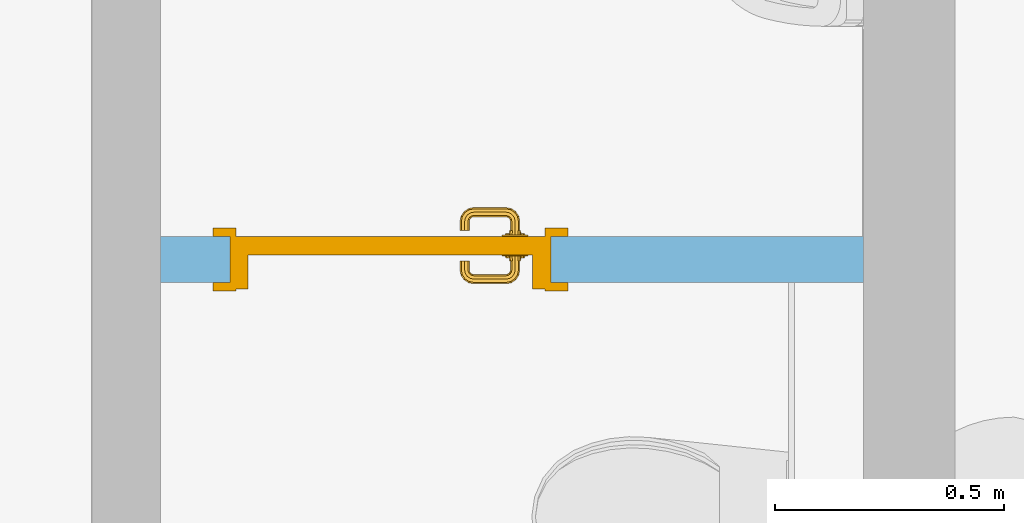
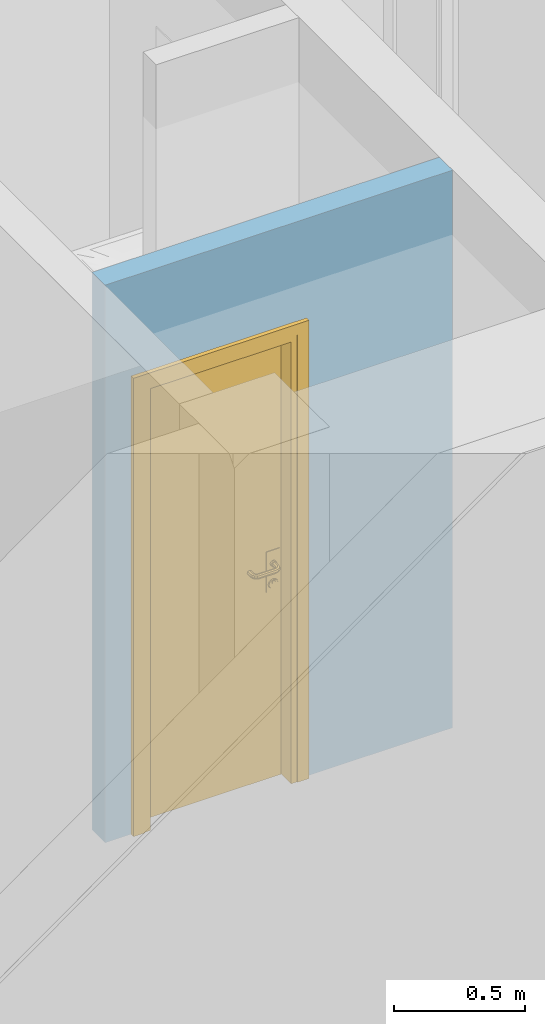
# One storey, part 38 of 127: 1 door, 1 opening, plus 1 element that does not belong to this part.
"""IFC2X3 building model written with IfcOpenShell, lengths in millimetres."""

from ifc_helpers import new_model, entity, si_unit, converted_unit, derived_unit, money_unit, direction, frame, origin_with_axes, origin_2d_with_axis, place, context, subcontext, project, spatial, polyline, rectangle, outline, extrude, open_shell, faceted_brep, surface_model, material, layer, layer_set, layer_usage, type_object, element, fill, save


model = new_model("IFC2X3")

# Units and contexts
model_context = context("Model", 3, precision=1e-05, world=origin_with_axes(), true_north=direction((0.0, 1.0)))
body_context = subcontext(model_context, "Body", "Model", "MODEL_VIEW")
ifc_project = project(units=[si_unit("LENGTHUNIT", "METRE", prefix="MILLI"), si_unit("AREAUNIT", "SQUARE_METRE"), si_unit("VOLUMEUNIT", "CUBIC_METRE"), converted_unit("PLANEANGLEUNIT", "DEGREE", entity("IfcPlaneAngleMeasure", 0.0174532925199), si_unit("PLANEANGLEUNIT", "RADIAN"), dimensions=[0, 0, 0, 0, 0, 0, 0]), si_unit("SOLIDANGLEUNIT", "STERADIAN"), money_unit("EUR"), converted_unit("TIMEUNIT", "Year", entity("IfcTimeMeasure", 31556926.0), si_unit("TIMEUNIT", "SECOND"), dimensions=[0, 0, 1, 0, 0, 0, 0]), si_unit("MASSUNIT", "GRAM", prefix="KILO"), si_unit("THERMODYNAMICTEMPERATUREUNIT", "DEGREE_CELSIUS"), si_unit("LUMINOUSINTENSITYUNIT", "LUMEN"), si_unit("ENERGYUNIT", "JOULE", prefix="MEGA"), derived_unit("THERMALCONDUCTANCEUNIT", [(si_unit("POWERUNIT", "WATT"), 1), (si_unit("LENGTHUNIT", "METRE"), -1), (si_unit("THERMODYNAMICTEMPERATUREUNIT", "KELVIN"), -1)]), derived_unit("SPECIFICHEATCAPACITYUNIT", [(si_unit("ENERGYUNIT", "JOULE"), 1), (si_unit("MASSUNIT", "GRAM", prefix="KILO"), -1), (si_unit("THERMODYNAMICTEMPERATUREUNIT", "KELVIN"), -1)]), derived_unit("MASSDENSITYUNIT", [(si_unit("MASSUNIT", "GRAM", prefix="KILO"), 1), (si_unit("VOLUMEUNIT", "CUBIC_METRE"), -1)])], contexts=[model_context])

# Site, building, storey
site_placement = place(None, origin_with_axes())
site = spatial("IfcSite", under=ifc_project, at=site_placement, Name="Site", CompositionType="ELEMENT")
building_placement = place(site_placement, origin_with_axes())
building = spatial("IfcBuilding", under=site, at=building_placement, Name="Building", CompositionType="ELEMENT")
storey_placement = place(building_placement, origin_with_axes())
storey = spatial("IfcBuildingStorey", under=building, at=storey_placement, Name="1 KORRUS", CompositionType="ELEMENT", Elevation=0.0)

# Wall, opening, door
ifc_material = material(Name="Kivi -Ol.Olev Konstruktsioon")
ifc_layer = layer(ifc_material, 100.0, ventilated="UNKNOWN")
ifc_layer_set = layer_set([ifc_layer], Name="ol.olev ss 100")
ifc_layer_usage = layer_usage(ifc_layer_set, "AXIS2", "POSITIVE", 0.0)
wall_type = type_object("IfcWallType", Name="SW - 037", PredefinedType="NOTDEFINED")
wall_placement = place(storey_placement, frame((9734.30400259, 60560.9804946, 0.0), z_axis=(0.0, 0.0, 1.0), x_axis=(1.0, 0.0, 0.0)))
wall = element("IfcWallStandardCase", 1, at=wall_placement, inside=storey, type_object=wall_type, material=ifc_layer_usage, Name="ol.olev ss 100", context=body_context, shape_type="SweptSolid", body=[
    extrude(outline(polyline([(150.0, 0.0), (1682.35207692, 0.0), (1682.35207692, 100.0), (150.0, 100.0), (150.0, 0.0)])), origin_with_axes(), (0.0, 0.0, 1.0), 2600.0),
])
opening_placement = place(wall_placement, frame((650.978587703, 0.0, 0.0), z_axis=(0.0, 0.0, 1.0), x_axis=(1.0, 0.0, 0.0)))
opening = element("IfcOpeningElement", 2, at=opening_placement, cuts=wall, Name="Siseuks * Door 22", context=body_context, shape_type="SweptSolid", body=[
    extrude(rectangle(XDim=700.0, YDim=2100.0, at=origin_2d_with_axis()), frame((0.0, -100.0, 1050.0), z_axis=(0.0, -1.0, 0.0), x_axis=(-1.0, 0.0, 0.0)), (0.0, 0.0, -1.0), 300.000000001),
    extrude(rectangle(XDim=774.0, YDim=2137.0, at=origin_2d_with_axis()), frame((0.0, 0.0, 1068.5), z_axis=(0.0, -1.0, 0.0), x_axis=(-1.0, 0.0, 0.0)), (0.0, 0.0, 1.0), 100.0),
    extrude(rectangle(XDim=774.0, YDim=2137.0, at=origin_2d_with_axis()), frame((0.0, 100.0, 1068.5), z_axis=(0.0, 1.0, 0.0), x_axis=(-1.0, 0.0, 0.0)), (0.0, 0.0, 1.0), 100.0),
])
door_style = type_object("IfcDoorStyle", Name="SU-A104A   700×2\xa0100", ConstructionType="NOTDEFINED", OperationType="SINGLE_SWING_LEFT", ParameterTakesPrecedence=False, Sizeable=False)
door_placement = place(opening_placement, frame((-350.0, 0.0, 0.0), z_axis=(0.0, 0.0, 1.0), x_axis=(1.0, 0.0, 0.0)))
door = element("IfcDoor", 3, at=door_placement, inside=storey, type_object=door_style, Name="Siseuks * Door 22", OverallHeight=2100.0, OverallWidth=700.0, context=body_context, shape_type="SurfaceModel", body=[
    faceted_brep([(737.0, -18.9999999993, 0.0), (687.0, -18.9999999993, 0.0), (687.0, 0.0, 0.0), (737.0, 0.0, 0.0), (737.0, -18.9999999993, 2137.0), (687.0, -18.9999999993, 2087.0), (687.0, 0.0, 2087.0), (737.0, 0.0, 2137.0)], [[[0, 1, 2, 3]], [[0, 4, 5, 1]], [[1, 5, 6, 2]], [[3, 2, 6, 7]], [[4, 0, 3, 7]], [[5, 4, 7, 6]]]),
    faceted_brep([(-36.9999999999, -18.9999999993, 2137.0), (13.0, -18.9999999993, 2087.0), (13.0, 0.0, 2087.0), (-36.9999999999, 0.0, 2137.0), (-36.9999999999, -18.9999999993, 0.0), (13.0, -18.9999999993, 0.0), (13.0, 0.0, 0.0), (-36.9999999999, 0.0, 0.0)], [[[0, 1, 2, 3]], [[0, 4, 5, 1]], [[1, 5, 6, 2]], [[3, 2, 6, 7]], [[4, 0, 3, 7]], [[5, 4, 7, 6]]]),
    faceted_brep([(737.0, -18.9999999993, 2137.0), (687.0, -18.9999999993, 2087.0), (687.0, 0.0, 2087.0), (737.0, 0.0, 2137.0), (-36.9999999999, -18.9999999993, 2137.0), (13.0, -18.9999999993, 2087.0), (13.0, 0.0, 2087.0), (-36.9999999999, 0.0, 2137.0)], [[[0, 1, 2, 3]], [[0, 4, 5, 1]], [[1, 5, 6, 2]], [[3, 2, 6, 7]], [[4, 0, 3, 7]], [[5, 4, 7, 6]]]),
    faceted_brep([(737.0, 119.000000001, 0.0), (737.0, 100.0, 0.0), (687.0, 100.0, 0.0), (687.0, 119.000000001, 0.0), (737.0, 119.000000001, 2137.0), (737.0, 100.0, 2137.0), (687.0, 100.0, 2087.0), (687.0, 119.000000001, 2087.0)], [[[0, 1, 2, 3]], [[4, 5, 1, 0]], [[1, 5, 6, 2]], [[3, 2, 6, 7]], [[0, 3, 7, 4]], [[7, 6, 5, 4]]]),
    faceted_brep([(-36.9999999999, 119.000000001, 2137.0), (-36.9999999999, 100.0, 2137.0), (13.0, 100.0, 2087.0), (13.0, 119.000000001, 2087.0), (-36.9999999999, 119.000000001, 0.0), (-36.9999999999, 100.0, 0.0), (13.0, 100.0, 0.0), (13.0, 119.000000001, 0.0)], [[[0, 1, 2, 3]], [[4, 5, 1, 0]], [[1, 5, 6, 2]], [[3, 2, 6, 7]], [[0, 3, 7, 4]], [[7, 6, 5, 4]]]),
    faceted_brep([(737.0, 119.000000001, 2137.0), (737.0, 100.0, 2137.0), (687.0, 100.0, 2087.0), (687.0, 119.000000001, 2087.0), (-36.9999999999, 119.000000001, 2137.0), (-36.9999999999, 100.0, 2137.0), (13.0, 100.0, 2087.0), (13.0, 119.000000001, 2087.0)], [[[0, 1, 2, 3]], [[4, 5, 1, 0]], [[1, 5, 6, 2]], [[3, 2, 6, 7]], [[0, 3, 7, 4]], [[7, 6, 5, 4]]]),
    faceted_brep([(660.0, 60.0000000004, 0.0), (660.0, -14.9999999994, 0.0), (660.0, -14.9999999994, 2060.0), (660.0, 60.0000000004, 2060.0), (672.0, 60.0000000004, 0.0), (672.0, 100.0, 0.0), (700.0, 100.0, 0.0), (700.0, -14.9999999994, 0.0), (700.0, -14.9999999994, 2060.0), (672.0, 60.0000000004, 2060.0), (700.0, 100.0, 2060.0), (672.0, 100.0, 2060.0)], [[[0, 1, 2, 3]], [[4, 5, 6, 7, 1, 0]], [[1, 7, 8, 2]], [[9, 3, 2, 8, 10, 11]], [[9, 4, 0, 3]], [[11, 5, 4, 9]], [[11, 10, 6, 5]], [[6, 10, 8, 7]]]),
    faceted_brep([(28.0, 60.0000000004, 2060.0), (28.0, 100.0, 2060.0), (0.0, 100.0, 2060.0), (0.0, -14.9999999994, 2060.0), (40.0000000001, -14.9999999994, 2060.0), (40.0000000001, 60.0000000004, 2060.0), (28.0, 60.0000000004, 0.0), (28.0, 100.0, 0.0), (0.0, 100.0, 0.0), (0.0, -14.9999999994, 0.0), (40.0000000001, -14.9999999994, 0.0), (40.0000000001, 60.0000000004, 0.0)], [[[0, 1, 2, 3, 4, 5]], [[0, 6, 7, 1]], [[7, 8, 2, 1]], [[2, 8, 9, 3]], [[3, 9, 10, 4]], [[5, 4, 10, 11]], [[5, 11, 6, 0]], [[6, 11, 10, 9, 8, 7]]]),
    faceted_brep([(672.0, 100.0, 2072.0), (28.0, 100.0, 2072.0), (28.0, 100.0, 2060.0), (0.0, 100.0, 2060.0), (0.0, 100.0, 2100.0), (700.0, 100.0, 2100.0), (700.0, 100.0, 2060.0), (672.0, 100.0, 2060.0), (672.0, 60.0000000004, 2072.0), (28.0, 60.0000000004, 2072.0), (28.0, 60.0000000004, 2060.0), (40.0000000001, 60.0000000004, 2060.0), (40.0000000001, -14.9999999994, 2060.0), (0.0, -14.9999999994, 2060.0), (0.0, -14.9999999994, 2100.0), (700.0, -14.9999999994, 2100.0), (700.0, -14.9999999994, 2060.0), (672.0, 60.0000000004, 2060.0), (660.0, -14.9999999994, 2060.0), (660.0, 60.0000000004, 2060.0)], [[[0, 1, 2, 3, 4, 5, 6, 7]], [[0, 8, 9, 1]], [[1, 9, 10, 2]], [[10, 11, 12, 13, 3, 2]], [[4, 3, 13, 14]], [[5, 4, 14, 15]], [[6, 5, 15, 16]], [[17, 7, 6, 16, 18, 19]], [[7, 17, 8, 0]], [[10, 9, 8, 17, 19, 11]], [[19, 18, 12, 11]], [[12, 18, 16, 15, 14, 13]]]),
    faceted_brep([(650.5, 60.0000000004, 1060.0), (593.5, 60.0000000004, 1060.0), (593.5, 57.0000000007, 1060.0), (650.5, 57.0000000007, 1060.0), (650.5, 60.0000000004, 870.0), (593.5, 60.0000000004, 870.0), (593.5, 57.0000000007, 870.0), (650.5, 57.0000000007, 870.0)], [[[0, 1, 2, 3]], [[0, 4, 5, 1]], [[1, 5, 6, 2]], [[3, 2, 6, 7]], [[4, 0, 3, 7]], [[5, 4, 7, 6]]]),
    surface_model("IfcShellBasedSurfaceModel", [(612.0, 47.0000000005, 1000.0), (614.928932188, 47.0000000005, 992.928932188), (614.928932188, 27.6964393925, 992.928932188), (612.0, 27.9849140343, 1000.0), (622.0, 47.0000000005, 990.0), (622.0, 27.0, 990.0), (613.816790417, 22.1053251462, 992.928932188), (611.057796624, 23.2481377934, 1000.0), (614.928932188, 47.0000000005, 1007.07106781), (614.928932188, 27.6964393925, 1007.07106781), (629.071067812, 47.0000000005, 992.928932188), (629.071067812, 26.3035606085, 992.928932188), (620.47759065, 19.3463313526, 990.0), (611.044179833, 17.955820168, 992.928932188), (608.932537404, 20.0674625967, 1000.0), (613.816790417, 22.1053251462, 1007.07106781), (622.0, 47.0000000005, 1010.0), (622.0, 27.0, 1010.0), (632.0, 47.0000000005, 1000.0), (632.0, 26.0150859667, 1000.0), (627.138390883, 16.5873375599, 992.928932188), (616.142135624, 12.8578643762, 990.0), (606.894674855, 15.1832095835, 992.928932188), (605.751862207, 17.9422033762, 1000.0), (611.044179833, 17.955820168, 1007.07106781), (620.47759065, 19.3463313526, 1010.0), (629.071067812, 47.0000000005, 1007.07106781), (629.071067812, 26.3035606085, 1007.07106781), (629.897384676, 15.4445249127, 1000.0), (621.240091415, 7.75990858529, 992.928932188), (609.653668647, 8.52240935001, 990.0), (601.303560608, 14.0710678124, 992.928932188), (601.015085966, 17.0000000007, 1000.0), (606.894674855, 15.1832095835, 1007.07106781), (616.142135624, 12.8578643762, 1010.0), (627.138390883, 16.5873375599, 1007.07106781), (623.351733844, 5.64826615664, 1000.0), (612.41266244, 1.86160911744, 992.928932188), (602.0, 7.00000000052, 990.0), (532.696439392, 14.0710678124, 992.928932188), (532.984914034, 17.0000000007, 1000.0), (601.303560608, 14.0710678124, 1007.07106781), (609.653668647, 8.52240935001, 1010.0), (621.240091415, 7.75990858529, 1007.07106781), (613.555475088, -0.897384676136, 1000.0), (602.696439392, -0.0710678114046, 992.928932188), (532.0, 7.00000000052, 990.0), (527.105325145, 15.1832095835, 992.928932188), (528.248137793, 17.9422033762, 1000.0), (532.696439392, 14.0710678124, 1007.07106781), (602.0, 7.00000000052, 1010.0), (612.41266244, 1.86160911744, 1007.07106781), (602.984914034, -2.9999999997, 1000.0), (531.303560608, -0.0710678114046, 992.928932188), (524.346331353, 8.52240935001, 990.0), (522.955820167, 17.955820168, 992.928932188), (525.067462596, 20.0674625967, 1000.0), (527.105325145, 15.1832095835, 1007.07106781), (532.0, 7.00000000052, 1010.0), (602.696439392, -0.0710678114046, 1007.07106781), (531.015085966, -2.9999999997, 1000.0), (521.58733756, 1.86160911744, 992.928932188), (517.857864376, 12.8578643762, 990.0), (520.183209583, 22.1053251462, 992.928932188), (522.942203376, 23.2481377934, 1000.0), (522.955820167, 17.955820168, 1007.07106781), (524.346331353, 8.52240935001, 1010.0), (531.303560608, -0.0710678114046, 1007.07106781), (520.444524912, -0.897384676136, 1000.0), (512.759908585, 7.75990858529, 992.928932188), (513.52240935, 19.3463313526, 990.0), (519.071067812, 27.6964393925, 992.928932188), (522.0, 27.9849140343, 1000.0), (520.183209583, 22.1053251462, 1007.07106781), (517.857864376, 12.8578643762, 1010.0), (521.58733756, 1.86160911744, 1007.07106781), (510.648266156, 5.64826615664, 1000.0), (506.861609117, 16.5873375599, 992.928932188), (512.0, 27.0, 990.0), (519.071067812, 47.0000000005, 992.928932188), (522.0, 47.0000000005, 1000.0), (519.071067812, 27.6964393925, 1007.07106781), (513.52240935, 19.3463313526, 1010.0), (512.759908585, 7.75990858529, 1007.07106781), (504.102615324, 15.4445249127, 1000.0), (504.928932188, 26.3035606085, 992.928932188), (512.0, 47.0000000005, 990.0), (504.928932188, 47.0000000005, 992.928932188), (502.0, 47.0000000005, 1000.0), (504.928932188, 47.0000000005, 1007.07106781), (512.0, 47.0000000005, 1010.0), (519.071067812, 47.0000000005, 1007.07106781), (512.0, 27.0, 1010.0), (506.861609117, 16.5873375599, 1007.07106781), (502.0, 26.0150859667, 1000.0), (504.928932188, 26.3035606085, 1007.07106781)], [open_shell([[[0, 1, 2, 3]], [[1, 4, 5, 2]], [[3, 2, 6, 7]], [[8, 0, 3, 9]], [[4, 10, 11, 5]], [[2, 5, 12, 6]], [[7, 6, 13, 14]], [[9, 3, 7, 15]], [[16, 8, 9, 17]], [[10, 18, 19, 11]], [[5, 11, 20, 12]], [[6, 12, 21, 13]], [[14, 13, 22, 23]], [[15, 7, 14, 24]], [[17, 9, 15, 25]], [[26, 16, 17, 27]], [[18, 26, 27, 19]], [[11, 19, 28, 20]], [[12, 20, 29, 21]], [[13, 21, 30, 22]], [[23, 22, 31, 32]], [[24, 14, 23, 33]], [[25, 15, 24, 34]], [[27, 17, 25, 35]], [[19, 27, 35, 28]], [[20, 28, 36, 29]], [[21, 29, 37, 30]], [[22, 30, 38, 31]], [[32, 31, 39, 40]], [[33, 23, 32, 41]], [[34, 24, 33, 42]], [[35, 25, 34, 43]], [[28, 35, 43, 36]], [[29, 36, 44, 37]], [[30, 37, 45, 38]], [[31, 38, 46, 39]], [[40, 39, 47, 48]], [[41, 32, 40, 49]], [[42, 33, 41, 50]], [[43, 34, 42, 51]], [[36, 43, 51, 44]], [[37, 44, 52, 45]], [[38, 45, 53, 46]], [[39, 46, 54, 47]], [[48, 47, 55, 56]], [[49, 40, 48, 57]], [[50, 41, 49, 58]], [[51, 42, 50, 59]], [[44, 51, 59, 52]], [[45, 52, 60, 53]], [[46, 53, 61, 54]], [[47, 54, 62, 55]], [[56, 55, 63, 64]], [[57, 48, 56, 65]], [[58, 49, 57, 66]], [[59, 50, 58, 67]], [[52, 59, 67, 60]], [[53, 60, 68, 61]], [[54, 61, 69, 62]], [[55, 62, 70, 63]], [[64, 63, 71, 72]], [[65, 56, 64, 73]], [[66, 57, 65, 74]], [[67, 58, 66, 75]], [[60, 67, 75, 68]], [[61, 68, 76, 69]], [[62, 69, 77, 70]], [[63, 70, 78, 71]], [[72, 71, 79, 80]], [[73, 64, 72, 81]], [[74, 65, 73, 82]], [[75, 66, 74, 83]], [[68, 75, 83, 76]], [[69, 76, 84, 77]], [[70, 77, 85, 78]], [[71, 78, 86, 79]], [[80, 79, 86, 87, 88, 89, 90, 91]], [[81, 72, 80, 91]], [[82, 73, 81, 92]], [[83, 74, 82, 93]], [[76, 83, 93, 84]], [[77, 84, 94, 85]], [[78, 85, 87, 86]], [[85, 94, 88, 87]], [[94, 95, 89, 88]], [[95, 92, 90, 89]], [[92, 81, 91, 90]], [[93, 82, 92, 95]], [[84, 93, 95, 94]]])]),
    faceted_brep([(611.607695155, 47.0000000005, 994.0), (610.0, 47.0000000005, 1000.0), (609.0, 57.0000000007, 1000.0), (610.741669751, 57.0000000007, 993.5), (616.0, 47.0000000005, 989.607695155), (622.0, 47.0000000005, 988.0), (628.0, 47.0000000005, 989.607695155), (632.392304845, 47.0000000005, 994.0), (634.0, 47.0000000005, 1000.0), (632.392304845, 47.0000000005, 1006.0), (628.0, 47.0000000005, 1010.39230485), (622.0, 47.0000000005, 1012.0), (616.0, 47.0000000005, 1010.39230485), (611.607695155, 47.0000000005, 1006.0), (610.741669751, 57.0000000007, 1006.5), (615.5, 57.0000000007, 1011.25833025), (622.0, 57.0000000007, 1013.0), (628.5, 57.0000000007, 1011.25833025), (633.258330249, 57.0000000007, 1006.5), (635.0, 57.0000000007, 1000.0), (633.258330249, 57.0000000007, 993.5), (628.5, 57.0000000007, 988.741669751), (622.0, 57.0000000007, 987.0), (615.5, 57.0000000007, 988.741669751)], [[[0, 1, 2, 3]], [[1, 0, 4, 5, 6, 7, 8, 9, 10, 11, 12, 13]], [[1, 13, 14, 2]], [[2, 14, 15, 16, 17, 18, 19, 20, 21, 22, 23, 3]], [[4, 0, 3, 23]], [[5, 4, 23, 22]], [[6, 5, 22, 21]], [[7, 6, 21, 20]], [[8, 7, 20, 19]], [[9, 8, 19, 18]], [[10, 9, 18, 17]], [[11, 10, 17, 16]], [[12, 11, 16, 15]], [[13, 12, 15, 14]]]),
    faceted_brep([(604.679491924, 53.0000000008, 895.0), (602.0, 53.0000000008, 905.0), (600.0, 57.0000000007, 905.0), (602.947441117, 57.0000000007, 894.0), (612.0, 53.0000000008, 887.679491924), (622.0, 53.0000000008, 885.0), (632.0, 53.0000000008, 887.679491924), (639.320508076, 53.0000000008, 895.0), (642.0, 53.0000000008, 905.0), (639.320508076, 53.0000000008, 915.0), (632.0, 53.0000000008, 922.320508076), (622.0, 53.0000000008, 925.0), (612.0, 53.0000000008, 922.320508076), (604.679491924, 53.0000000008, 915.0), (602.947441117, 57.0000000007, 916.0), (611.0, 57.0000000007, 924.052558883), (622.0, 57.0000000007, 927.0), (633.0, 57.0000000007, 924.052558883), (641.052558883, 57.0000000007, 916.0), (644.0, 57.0000000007, 905.0), (641.052558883, 57.0000000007, 894.0), (633.0, 57.0000000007, 885.947441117), (622.0, 57.0000000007, 883.0), (611.0, 57.0000000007, 885.947441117)], [[[0, 1, 2, 3]], [[1, 0, 4, 5, 6, 7, 8, 9, 10, 11, 12, 13]], [[1, 13, 14, 2]], [[2, 14, 15, 16, 17, 18, 19, 20, 21, 22, 23, 3]], [[4, 0, 3, 23]], [[5, 4, 23, 22]], [[6, 5, 22, 21]], [[7, 6, 21, 20]], [[8, 7, 20, 19]], [[9, 8, 19, 18]], [[10, 9, 18, 17]], [[11, 10, 17, 16]], [[12, 11, 16, 15]], [[13, 12, 15, 14]]]),
    faceted_brep([(617.050252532, 51.0000000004, 909.050252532), (615.0, 51.0000000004, 914.0), (614.0, 53.0000000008, 914.0), (616.343145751, 53.0000000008, 908.343145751), (622.0, 51.0000000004, 907.0), (626.949747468, 51.0000000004, 909.050252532), (629.0, 51.0000000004, 914.0), (626.949747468, 51.0000000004, 918.949747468), (622.0, 51.0000000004, 921.0), (617.050252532, 51.0000000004, 918.949747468), (616.343145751, 53.0000000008, 919.656854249), (622.0, 53.0000000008, 922.0), (627.656854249, 53.0000000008, 919.656854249), (630.0, 53.0000000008, 914.0), (627.656854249, 53.0000000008, 908.343145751), (622.0, 53.0000000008, 906.0)], [[[0, 1, 2, 3]], [[1, 0, 4, 5, 6, 7, 8, 9]], [[1, 9, 10, 2]], [[2, 10, 11, 12, 13, 14, 15, 3]], [[4, 0, 3, 15]], [[5, 4, 15, 14]], [[6, 5, 14, 13]], [[7, 6, 13, 12]], [[8, 7, 12, 11]], [[9, 8, 11, 10]]]),
    faceted_brep([(650.5, 100.0, 1060.0), (650.5, 103.0, 1060.0), (593.5, 103.0, 1060.0), (593.5, 100.0, 1060.0), (650.5, 100.0, 870.0), (650.5, 103.0, 870.0), (593.5, 103.0, 870.0), (593.5, 100.0, 870.0)], [[[0, 1, 2, 3]], [[4, 5, 1, 0]], [[1, 5, 6, 2]], [[3, 2, 6, 7]], [[0, 3, 7, 4]], [[7, 6, 5, 4]]]),
    surface_model("IfcShellBasedSurfaceModel", [(612.0, 113.0, 1000.0), (612.0, 132.015085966, 1000.0), (614.928932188, 132.303560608, 992.928932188), (614.928932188, 113.0, 992.928932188), (614.928932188, 113.0, 1007.07106781), (614.928932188, 132.303560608, 1007.07106781), (611.057796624, 136.751862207, 1000.0), (613.816790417, 137.894674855, 992.928932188), (622.0, 133.000000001, 990.0), (622.0, 113.0, 990.0), (622.0, 113.0, 1010.0), (622.0, 133.000000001, 1010.0), (613.816790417, 137.894674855, 1007.07106781), (608.932537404, 139.932537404, 1000.0), (611.044179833, 142.044179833, 992.928932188), (620.47759065, 140.653668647, 990.0), (629.071067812, 133.696439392, 992.928932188), (629.071067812, 113.0, 992.928932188), (629.071067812, 113.0, 1007.07106781), (629.071067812, 133.696439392, 1007.07106781), (620.47759065, 140.653668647, 1010.0), (611.044179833, 142.044179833, 1007.07106781), (605.751862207, 142.057796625, 1000.0), (606.894674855, 144.816790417, 992.928932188), (616.142135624, 147.142135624, 990.0), (627.138390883, 143.412662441, 992.928932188), (632.0, 133.984914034, 1000.0), (632.0, 113.0, 1000.0), (627.138390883, 143.412662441, 1007.07106781), (616.142135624, 147.142135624, 1010.0), (606.894674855, 144.816790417, 1007.07106781), (601.015085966, 143.0, 1000.0), (601.303560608, 145.928932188, 992.928932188), (609.653668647, 151.477590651, 990.0), (621.240091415, 152.240091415, 992.928932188), (629.897384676, 144.555475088, 1000.0), (621.240091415, 152.240091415, 1007.07106781), (609.653668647, 151.477590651, 1010.0), (601.303560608, 145.928932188, 1007.07106781), (532.984914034, 143.0, 1000.0), (532.696439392, 145.928932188, 992.928932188), (602.0, 153.0, 990.0), (612.41266244, 158.138390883, 992.928932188), (623.351733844, 154.351733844, 1000.0), (612.41266244, 158.138390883, 1007.07106781), (602.0, 153.0, 1010.0), (532.696439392, 145.928932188, 1007.07106781), (528.248137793, 142.057796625, 1000.0), (527.105325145, 144.816790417, 992.928932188), (532.0, 153.0, 990.0), (602.696439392, 160.071067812, 992.928932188), (613.555475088, 160.897384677, 1000.0), (602.696439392, 160.071067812, 1007.07106781), (532.0, 153.0, 1010.0), (527.105325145, 144.816790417, 1007.07106781), (525.067462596, 139.932537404, 1000.0), (522.955820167, 142.044179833, 992.928932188), (524.346331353, 151.477590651, 990.0), (531.303560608, 160.071067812, 992.928932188), (602.984914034, 163.0, 1000.0), (531.303560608, 160.071067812, 1007.07106781), (524.346331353, 151.477590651, 1010.0), (522.955820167, 142.044179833, 1007.07106781), (522.942203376, 136.751862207, 1000.0), (520.183209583, 137.894674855, 992.928932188), (517.857864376, 147.142135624, 990.0), (521.58733756, 158.138390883, 992.928932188), (531.015085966, 163.0, 1000.0), (521.58733756, 158.138390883, 1007.07106781), (517.857864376, 147.142135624, 1010.0), (520.183209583, 137.894674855, 1007.07106781), (522.0, 132.015085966, 1000.0), (519.071067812, 132.303560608, 992.928932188), (513.52240935, 140.653668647, 990.0), (512.759908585, 152.240091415, 992.928932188), (520.444524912, 160.897384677, 1000.0), (512.759908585, 152.240091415, 1007.07106781), (513.52240935, 140.653668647, 1010.0), (519.071067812, 132.303560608, 1007.07106781), (522.0, 113.0, 1000.0), (519.071067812, 113.0, 992.928932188), (512.0, 133.000000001, 990.0), (506.861609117, 143.412662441, 992.928932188), (510.648266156, 154.351733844, 1000.0), (506.861609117, 143.412662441, 1007.07106781), (512.0, 133.000000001, 1010.0), (519.071067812, 113.0, 1007.07106781), (512.0, 113.0, 1010.0), (504.928932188, 113.0, 1007.07106781), (502.0, 113.0, 1000.0), (504.928932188, 113.0, 992.928932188), (512.0, 113.0, 990.0), (504.928932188, 133.696439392, 992.928932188), (504.102615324, 144.555475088, 1000.0), (504.928932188, 133.696439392, 1007.07106781), (502.0, 133.984914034, 1000.0)], [open_shell([[[0, 1, 2, 3]], [[4, 5, 1, 0]], [[1, 6, 7, 2]], [[3, 2, 8, 9]], [[10, 11, 5, 4]], [[5, 12, 6, 1]], [[6, 13, 14, 7]], [[2, 7, 15, 8]], [[9, 8, 16, 17]], [[18, 19, 11, 10]], [[11, 20, 12, 5]], [[12, 21, 13, 6]], [[13, 22, 23, 14]], [[7, 14, 24, 15]], [[8, 15, 25, 16]], [[17, 16, 26, 27]], [[27, 26, 19, 18]], [[19, 28, 20, 11]], [[20, 29, 21, 12]], [[21, 30, 22, 13]], [[22, 31, 32, 23]], [[14, 23, 33, 24]], [[15, 24, 34, 25]], [[16, 25, 35, 26]], [[26, 35, 28, 19]], [[28, 36, 29, 20]], [[29, 37, 30, 21]], [[30, 38, 31, 22]], [[31, 39, 40, 32]], [[23, 32, 41, 33]], [[24, 33, 42, 34]], [[25, 34, 43, 35]], [[35, 43, 36, 28]], [[36, 44, 37, 29]], [[37, 45, 38, 30]], [[38, 46, 39, 31]], [[39, 47, 48, 40]], [[32, 40, 49, 41]], [[33, 41, 50, 42]], [[34, 42, 51, 43]], [[43, 51, 44, 36]], [[44, 52, 45, 37]], [[45, 53, 46, 38]], [[46, 54, 47, 39]], [[47, 55, 56, 48]], [[40, 48, 57, 49]], [[41, 49, 58, 50]], [[42, 50, 59, 51]], [[51, 59, 52, 44]], [[52, 60, 53, 45]], [[53, 61, 54, 46]], [[54, 62, 55, 47]], [[55, 63, 64, 56]], [[48, 56, 65, 57]], [[49, 57, 66, 58]], [[50, 58, 67, 59]], [[59, 67, 60, 52]], [[60, 68, 61, 53]], [[61, 69, 62, 54]], [[62, 70, 63, 55]], [[63, 71, 72, 64]], [[56, 64, 73, 65]], [[57, 65, 74, 66]], [[58, 66, 75, 67]], [[67, 75, 68, 60]], [[68, 76, 69, 61]], [[69, 77, 70, 62]], [[70, 78, 71, 63]], [[71, 79, 80, 72]], [[64, 72, 81, 73]], [[65, 73, 82, 74]], [[66, 74, 83, 75]], [[75, 83, 76, 68]], [[76, 84, 77, 69]], [[77, 85, 78, 70]], [[78, 86, 79, 71]], [[79, 86, 87, 88, 89, 90, 91, 80]], [[72, 80, 91, 81]], [[73, 81, 92, 82]], [[74, 82, 93, 83]], [[83, 93, 84, 76]], [[84, 94, 85, 77]], [[85, 87, 86, 78]], [[94, 88, 87, 85]], [[95, 89, 88, 94]], [[92, 90, 89, 95]], [[81, 91, 90, 92]], [[82, 92, 95, 93]], [[93, 95, 94, 84]]])]),
    faceted_brep([(611.607695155, 113.0, 994.0), (610.741669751, 103.0, 993.5), (609.0, 103.0, 1000.0), (610.0, 113.0, 1000.0), (616.0, 113.0, 989.607695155), (615.5, 103.0, 988.741669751), (622.0, 103.0, 987.0), (628.5, 103.0, 988.741669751), (633.258330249, 103.0, 993.5), (635.0, 103.0, 1000.0), (633.258330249, 103.0, 1006.5), (628.5, 103.0, 1011.25833025), (622.0, 103.0, 1013.0), (615.5, 103.0, 1011.25833025), (610.741669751, 103.0, 1006.5), (611.607695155, 113.0, 1006.0), (616.0, 113.0, 1010.39230485), (622.0, 113.0, 1012.0), (628.0, 113.0, 1010.39230485), (632.392304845, 113.0, 1006.0), (634.0, 113.0, 1000.0), (632.392304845, 113.0, 994.0), (628.0, 113.0, 989.607695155), (622.0, 113.0, 988.0)], [[[0, 1, 2, 3]], [[4, 5, 1, 0]], [[2, 1, 5, 6, 7, 8, 9, 10, 11, 12, 13, 14]], [[3, 2, 14, 15]], [[3, 15, 16, 17, 18, 19, 20, 21, 22, 23, 4, 0]], [[23, 6, 5, 4]], [[22, 7, 6, 23]], [[21, 8, 7, 22]], [[20, 9, 8, 21]], [[19, 10, 9, 20]], [[18, 11, 10, 19]], [[17, 12, 11, 18]], [[16, 13, 12, 17]], [[15, 14, 13, 16]]]),
    faceted_brep([(604.679491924, 107.0, 895.0), (602.947441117, 103.0, 894.0), (600.0, 103.0, 905.0), (602.0, 107.0, 905.0), (612.0, 107.0, 887.679491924), (611.0, 103.0, 885.947441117), (622.0, 103.0, 883.0), (633.0, 103.0, 885.947441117), (641.052558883, 103.0, 894.0), (644.0, 103.0, 905.0), (641.052558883, 103.0, 916.0), (633.0, 103.0, 924.052558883), (622.0, 103.0, 927.0), (611.0, 103.0, 924.052558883), (602.947441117, 103.0, 916.0), (604.679491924, 107.0, 915.0), (612.0, 107.0, 922.320508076), (622.0, 107.0, 925.0), (632.0, 107.0, 922.320508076), (639.320508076, 107.0, 915.0), (642.0, 107.0, 905.0), (639.320508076, 107.0, 895.0), (632.0, 107.0, 887.679491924), (622.0, 107.0, 885.0)], [[[0, 1, 2, 3]], [[4, 5, 1, 0]], [[2, 1, 5, 6, 7, 8, 9, 10, 11, 12, 13, 14]], [[3, 2, 14, 15]], [[3, 15, 16, 17, 18, 19, 20, 21, 22, 23, 4, 0]], [[23, 6, 5, 4]], [[22, 7, 6, 23]], [[21, 8, 7, 22]], [[20, 9, 8, 21]], [[19, 10, 9, 20]], [[18, 11, 10, 19]], [[17, 12, 11, 18]], [[16, 13, 12, 17]], [[15, 14, 13, 16]]]),
    faceted_brep([(617.050252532, 109.0, 909.050252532), (616.343145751, 107.0, 908.343145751), (614.0, 107.0, 914.0), (615.0, 109.0, 914.0), (622.0, 109.0, 907.0), (622.0, 107.0, 906.0), (627.656854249, 107.0, 908.343145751), (630.0, 107.0, 914.0), (627.656854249, 107.0, 919.656854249), (622.0, 107.0, 922.0), (616.343145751, 107.0, 919.656854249), (617.050252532, 109.0, 918.949747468), (622.0, 109.0, 921.0), (626.949747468, 109.0, 918.949747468), (629.0, 109.0, 914.0), (626.949747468, 109.0, 909.050252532)], [[[0, 1, 2, 3]], [[4, 5, 1, 0]], [[2, 1, 5, 6, 7, 8, 9, 10]], [[3, 2, 10, 11]], [[3, 11, 12, 13, 14, 15, 4, 0]], [[15, 6, 5, 4]], [[14, 7, 6, 15]], [[13, 8, 7, 14]], [[12, 9, 8, 13]], [[11, 10, 9, 12]]]),
    faceted_brep([(28.0, 100.0, 0.0), (672.0, 100.0, 0.0), (672.0, 60.0000000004, 0.0), (28.0, 60.0000000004, 0.0), (28.0, 100.0, 2072.0), (672.0, 100.0, 2072.0), (672.0, 60.0000000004, 2072.0), (28.0, 60.0000000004, 2072.0)], [[[0, 1, 2, 3]], [[0, 4, 5, 1]], [[1, 5, 6, 2]], [[3, 2, 6, 7]], [[4, 0, 3, 7]], [[5, 4, 7, 6]]]),
])
fill(opening, door)

save(model, "model.ifc")
